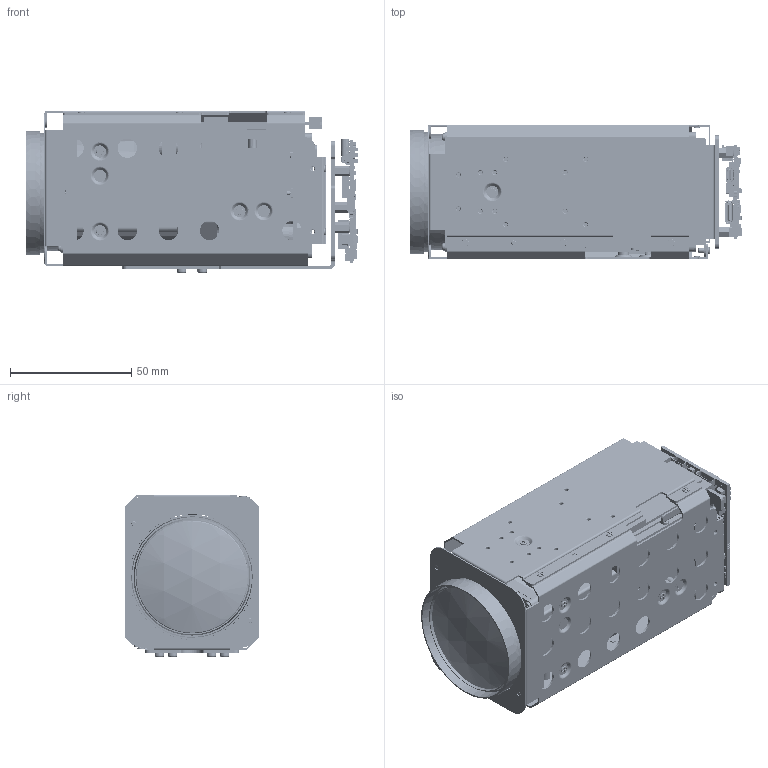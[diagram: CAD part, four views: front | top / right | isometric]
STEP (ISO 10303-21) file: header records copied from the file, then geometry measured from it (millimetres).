
FILE_DESCRIPTION( ( 'Unknown' ), '1' );
FILE_NAME( 'H:/Proj/Ap/AP23_LRCA/Tech/HW/C06/Pcb-MM/MM-AP23C06-0104/Iss01/mm-ap23c06-0104-0101.stp', 'Unknown', ( 'Unknown' ), ( 'Unknown' ), 'PSStep 17.0.49', 'Unknown', ' ' );
FILE_SCHEMA( ( 'AUTOMOTIVE_DESIGN { 1 0 10303 214 1 1 1 1 }' ) );
Length unit declared in the file: millimetre
Products named in the file (456): Body-4; Open_CASCADE_STEP_translator_6.8_19.2.1; Pin_Shape; Open_CASCADE_STEP_translator_6.8_14.4.1; Pin_Shape-1; Mid_Body; Open_CASCADE_STEP_translator_6.8_25.2.1; Pin_Shape-2; Open_CASCADE_STEP_translator_6.8_9.4.1; Terminal; Open_CASCADE_STEP_translator_6.8_25.1.1; Open_CASCADE_STEP_translator_6.8_25.1.2; Body-3; Open_CASCADE_STEP_translator_6.8_9.2.1; Pin_Shape-3; Open_CASCADE_STEP_translator_6.8_19.4.1; Body; Open_CASCADE_STEP_translator_6.8_14.2.1; Body-1; Body-2; Open_CASCADE_STEP_translator_6.8_2.2.1; 7187811120; Extruded; 7187821360; 8636596368; 7100754704; Thermal_Shape; Open_CASCADE_STEP_translator_6.8_9.1; 7100750064; Open_CASCADE_STEP_translator_6.8_14.1; 7100759264; 7187817440; 8685633920; 6919893648; 8574622816; 8685643520; 7100753264; Open_CASCADE_STEP_translator_6.8_19.1; CHP-081TA; _CHP-08-J-Lower-body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
Assembly tree (1201 placements, depth 6):
  Assem1
    G-028-825A  x3
    G-806-048H  x4
    bracket-assy
      G-028-825A  x3
      bracket-0378-02
      G-090-651C  x3
    AS-CAM-36LGHD-A
      PCB_SPACER__
      MAIN_PCB_
      SENSOR_SPACER_SHEET
      SHEET__
      35X_IPT_ASM
        149200-1000_SHRINKWRAP_1_ASM
          _X2_5B9E4F53_X0_1
          _X2_5B9E4F53_X0_2
          _X2_5B9E4F53_X0_3
          _X2_5B9E4F53_X0_4
          _X2_5B9E4F53_X0_5
          _X2_5B9E4F53_X0_6
          _X2_5B9E4F53_X0_7-12324
          _X2_5B9E4F53_X0_7-12325
          _X2_5B9E4F53_X0_8
          _X2_5B9E4F53_X0_9
          _X2_5B9E4F53_X0_10
          _X2_5B9E4F53_X0_11
          _X2_5B9E4F53_X0_12
          _X2_5B9E4F53_X0_13
          _X2_5B9E4F53_X0_14
          _X2_5B9E4F53_X0_15
          _X2_5B9E4F53_X0_16
          _X2_5B9E4F53_X0_17
          _X2_5B9E4F53_X0_18
          _X2_5B9E4F53_X0_19
          _X2_5B9E4F53_X0_20
          _X2_5B9E4F53_X0_21
          _X2_5B9E4F53_X0_22
          _X2_5B9E4F53_X0_23
          _X2_5B9E4F53_X0_24
          _X2_5B9E4F53_X0_25
          _X2_5B9E4F53_X0_26
          _X2_5B9E4F53_X0_27
          _X2_5B9E4F53_X0_28
          1592M1-1012
          149200-1000_SHRINKWRAP_1_ASM
      SENSOR_PCB_ASSY__ASM
        PRT0003_
        CMOS_IMX264_265_392LQJ-C
      CHASSIS_ASM
        323037090_CHASSIS_TOP
        TS_LH_M2X4_TYPE2  x6
        MS_LH_M2X3  x3
        MS_LH_M2X4  x6
        323037095_CHASSIS_BOTTOM
    mm-ap23c06-0096-0101
      U1
      L3-985
      Board
        Open CASCADE STEP translator 6.8 4.1.1
          Open CASCADE STEP translator 6.8 4.1.1.1
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Bounding box: 137 x 55.6 x 67.14 mm (x, y, z)
Surface area: 194648.5 mm2 (no closed solid volume)
Topology: 0 solids, 17476 shells, 17476 faces, 88270 edges, 87546 vertices
Faces by surface type: plane 13645, cylinder 2647, torus 279, revolution 247, bspline 185, cone 167, extrusion 160, sphere 146
Full cylindrical faces by diameter (mm): 0.023 x14, 0.15 x7, 0.164 x7, 0.224 x1, 0.256 x1, 0.4 x12, 0.432 x2, 0.5 x1, 0.512 x1, 0.6 x2, 0.7 x10, 0.75 x1, 1 x1, 1.051 x2, 1.137 x1, 1.2 x19, 1.349 x4, 1.35 x20, 1.4 x2, 1.499 x2, 1.5 x3, 1.567 x3, 1.599 x14, 1.6 x31, 1.699 x10, 1.7 x13, 1.789 x4, 1.791 x6, 1.8 x6, 1.801 x21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
Entity records: 613999 total; most frequent: CARTESIAN_POINT 163432, DIRECTION 72065, VERTEX_POINT 49386, ORIENTED_EDGE 49377, EDGE_CURVE 49377, VECTOR 34550, LINE 34390, AXIS2_PLACEMENT_3D 18646
